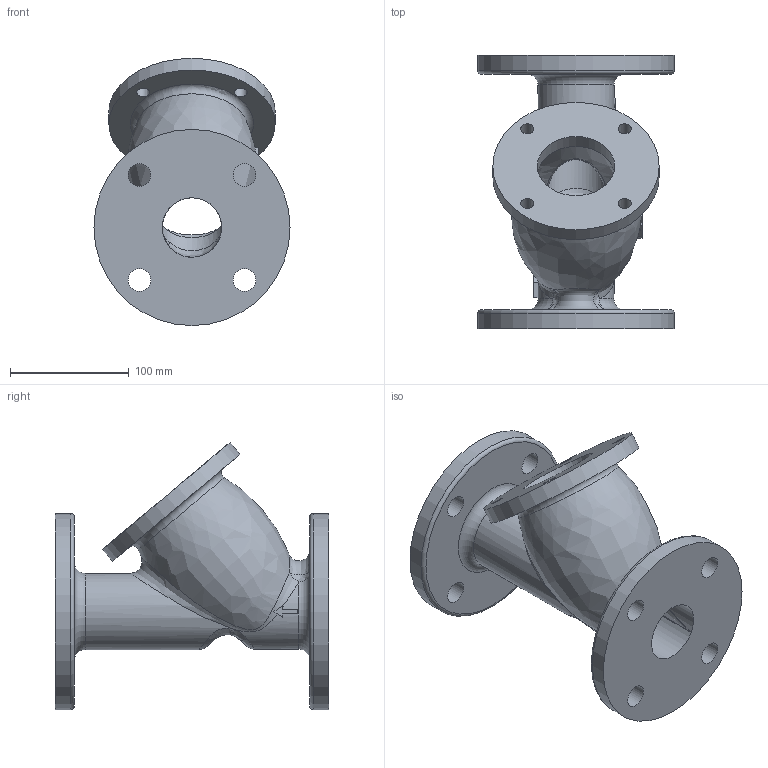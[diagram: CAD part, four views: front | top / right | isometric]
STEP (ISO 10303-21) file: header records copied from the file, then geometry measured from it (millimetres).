
FILE_DESCRIPTION( ( 'Unknown' ), '1' );
FILE_NAME( 'D:/Documentos Murilo/Desktop/VARB/2022/06 JUNHO/DESENHOS FILTRO Y 97/FILTRO 2/FILTRO Y 2 .stp', 'Unknown', ( 'Unknown' ), ( 'Unknown' ), 'PSStep 11.0', 'Unknown', ' ' );
FILE_SCHEMA( ( 'AUTOMOTIVE_DESIGN { 1 0 10303 214 1 1 1 1 }' ) );
Length unit declared in the file: millimetre
Products named in the file (1): 1
Bounding box: 165 x 230 x 224.78 mm (x, y, z)
Volume: 1169267.4 mm3; surface area: 239931.3 mm2
Topology: 1 solids, 1 shells, 163 faces, 415 edges, 272 vertices
Faces by surface type: plane 81, cylinder 37, bspline 32, torus 7, extrusion 6
Full cylindrical faces by diameter (mm): 11 x4, 19 x8, 50 x1, 64 x1, 65 x2, 140 x1, 165 x2
Entity records: 17288 total; most frequent: CARTESIAN_POINT 12452, ORIENTED_EDGE 734, DIRECTION 630, EDGE_CURVE 367, VERTEX_POINT 251, AXIS2_PLACEMENT_3D 239, EDGE_LOOP 236, FACE_OUTER_BOUND 190
